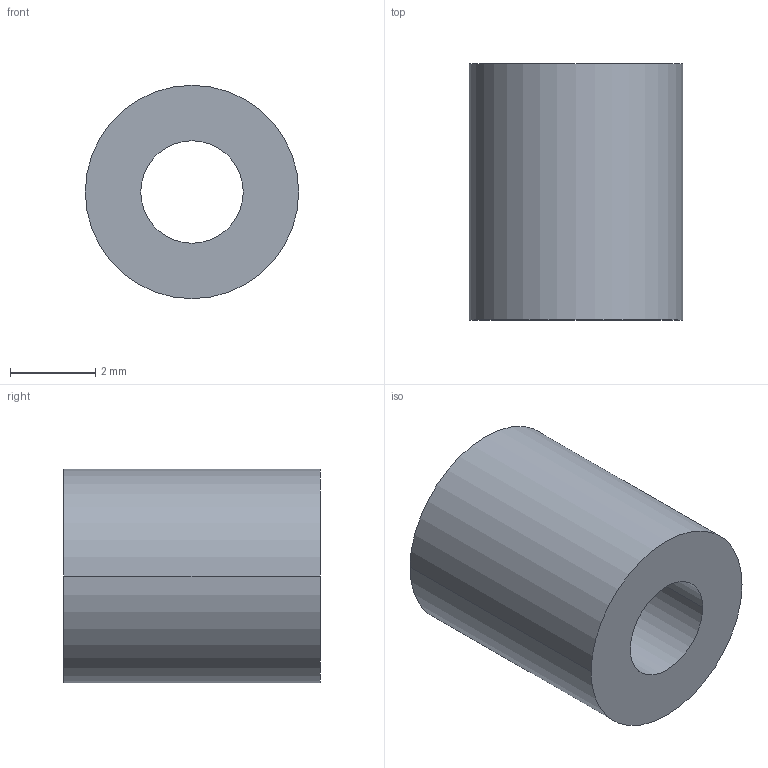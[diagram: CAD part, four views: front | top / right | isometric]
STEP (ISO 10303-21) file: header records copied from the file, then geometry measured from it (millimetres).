
FILE_DESCRIPTION (( 'STEP AP203' ), '1' );
FILE_NAME ('30800.WPP5A2.4.step', '2019-01-23T22:16:53', ( '' ), ( '' ), 'SwSTEP 2.0', 'SolidWorks 2017', '' );
FILE_SCHEMA (( 'CONFIG_CONTROL_DESIGN' ));
Length unit declared in the file: millimetre
Products named in the file (1): 30800.WPP5A2.4
Bounding box: 5 x 6 x 5 mm (x, y, z)
Volume: 88.7 mm3; surface area: 166.9 mm2
Topology: 1 solids, 1 shells, 8 faces, 16 edges, 10 vertices
Faces by surface type: cylinder 4, torus 2, plane 2
Entity records: 297 total; most frequent: DIRECTION 46, CARTESIAN_POINT 35, ORIENTED_EDGE 32, AXIS2_PLACEMENT_3D 21, EDGE_CURVE 16, CIRCLE 12, VERTEX_POINT 10, EDGE_LOOP 10
